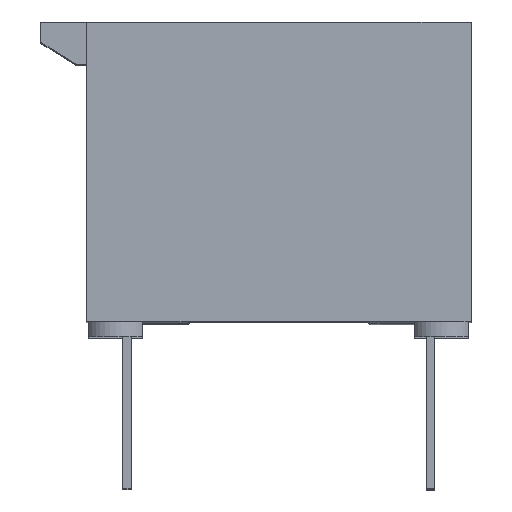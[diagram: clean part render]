
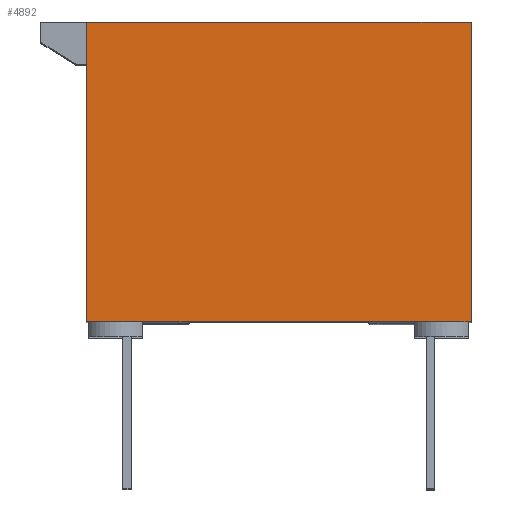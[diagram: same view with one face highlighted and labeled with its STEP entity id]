
A CAD part, top view. The second image highlights one B-rep face of the part: STEP entity #4892.
In plain terms, the highlighted planar face has unit normal (0, 0, 1).
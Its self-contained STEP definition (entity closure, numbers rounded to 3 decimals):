
#810 = VERTEX_POINT ( 'NONE', #7140 ) ;
#1271 = EDGE_CURVE ( 'NONE', #810, #23126, #18114, .T. ) ;
#2376 = CARTESIAN_POINT ( 'NONE',  ( -4.889, 0., 0. ) ) ;
#2562 = CARTESIAN_POINT ( 'NONE',  ( -4.153, 0., 0. ) ) ;
#2604 = CARTESIAN_POINT ( 'NONE',  ( 4.763, 7.518, 0. ) ) ;
#2852 = DIRECTION ( 'NONE',  ( 0., 1., 0. ) ) ;
#2985 = VERTEX_POINT ( 'NONE', #2562 ) ;
#3907 = CARTESIAN_POINT ( 'NONE',  ( -4.407, 0., 0. ) ) ;
#4196 = CARTESIAN_POINT ( 'NONE',  ( -4.407, 0., 0. ) ) ;
#4447 = LINE ( 'NONE', #8521, #8191 ) ;
#4892 = ADVANCED_FACE ( 'NONE', ( #10857 ), #5126, .F. ) ;
#5126 = PLANE ( 'NONE',  #14551 ) ;
#5407 = ORIENTED_EDGE ( 'NONE', *, *, #1271, .T. ) ;
#6248 = VECTOR ( 'NONE', #9956, 1000. ) ;
#6437 = LINE ( 'NONE', #2604, #6248 ) ;
#7140 = CARTESIAN_POINT ( 'NONE',  ( 4.763, 0., 0. ) ) ;
#7423 = ORIENTED_EDGE ( 'NONE', *, *, #14395, .T. ) ;
#7903 = LINE ( 'NONE', #4196, #20692 ) ;
#8191 = VECTOR ( 'NONE', #16092, 1000. ) ;
#8521 = CARTESIAN_POINT ( 'NONE',  ( -4.407, 0., 0. ) ) ;
#8683 = VERTEX_POINT ( 'NONE', #2376 ) ;
#9316 = VECTOR ( 'NONE', #17448, 1000. ) ;
#9548 = DIRECTION ( 'NONE',  ( 1., 0., 0. ) ) ;
#9933 = EDGE_CURVE ( 'NONE', #8683, #2985, #7903, .T. ) ;
#9956 = DIRECTION ( 'NONE',  ( -1., 0., 0. ) ) ;
#10101 = ORIENTED_EDGE ( 'NONE', *, *, #17631, .T. ) ;
#10665 = VECTOR ( 'NONE', #14870, 1000. ) ;
#10857 = FACE_OUTER_BOUND ( 'NONE', #23355, .T. ) ;
#11352 = ORIENTED_EDGE ( 'NONE', *, *, #23460, .T. ) ;
#12693 = EDGE_CURVE ( 'NONE', #16442, #8683, #18356, .T. ) ;
#13212 = CARTESIAN_POINT ( 'NONE',  ( -4.889, 0., 0. ) ) ;
#13342 = LINE ( 'NONE', #3907, #9316 ) ;
#14395 = EDGE_CURVE ( 'NONE', #23126, #16442, #6437, .T. ) ;
#14551 = AXIS2_PLACEMENT_3D ( 'NONE', #13212, #15066, #24397 ) ;
#14870 = DIRECTION ( 'NONE',  ( 0., -1., 0. ) ) ;
#15066 = DIRECTION ( 'NONE',  ( 0., 0., -1. ) ) ;
#15759 = CARTESIAN_POINT ( 'NONE',  ( 4.763, 0., 0. ) ) ;
#16092 = DIRECTION ( 'NONE',  ( 1., 0., 0. ) ) ;
#16402 = VECTOR ( 'NONE', #2852, 1000. ) ;
#16442 = VERTEX_POINT ( 'NONE', #24495 ) ;
#16748 = CARTESIAN_POINT ( 'NONE',  ( -4.889, 0., 0. ) ) ;
#17448 = DIRECTION ( 'NONE',  ( 1., 0., 0. ) ) ;
#17527 = ORIENTED_EDGE ( 'NONE', *, *, #9933, .T. ) ;
#17631 = EDGE_CURVE ( 'NONE', #20849, #810, #13342, .T. ) ;
#18114 = LINE ( 'NONE', #15759, #16402 ) ;
#18356 = LINE ( 'NONE', #16748, #10665 ) ;
#20123 = CARTESIAN_POINT ( 'NONE',  ( 4.763, 7.518, 0. ) ) ;
#20692 = VECTOR ( 'NONE', #9548, 1000. ) ;
#20849 = VERTEX_POINT ( 'NONE', #23091 ) ;
#21818 = ORIENTED_EDGE ( 'NONE', *, *, #12693, .T. ) ;
#23091 = CARTESIAN_POINT ( 'NONE',  ( 4.026, 0., 0. ) ) ;
#23126 = VERTEX_POINT ( 'NONE', #20123 ) ;
#23355 = EDGE_LOOP ( 'NONE', ( #7423, #21818, #17527, #11352, #10101, #5407 ) ) ;
#23460 = EDGE_CURVE ( 'NONE', #2985, #20849, #4447, .T. ) ;
#24397 = DIRECTION ( 'NONE',  ( -1., 0., 0. ) ) ;
#24495 = CARTESIAN_POINT ( 'NONE',  ( -4.89, 7.518, 0. ) ) ;
